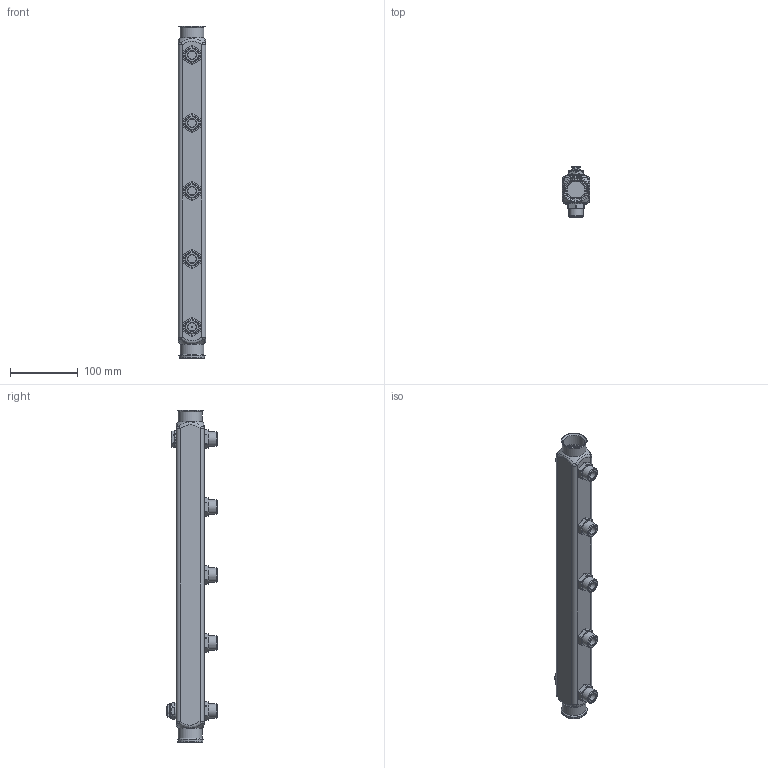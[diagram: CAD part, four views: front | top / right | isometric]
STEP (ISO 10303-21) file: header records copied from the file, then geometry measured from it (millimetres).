
FILE_DESCRIPTION(('STEP AP203'), '1');
FILE_NAME('VTc.510.SQ.060405', '2025-12-12T11:56:20', ('verevichevva'), ('Vesta'), 'C3D Converter', 'C3D Toolkit', '');
FILE_SCHEMA(('CONFIG_CONTROL_DESIGN'));
Length unit declared in the file: millimetre
Products named in the file (1): ВР.622621.195.000 СБ
Bounding box: 40 x 73.6 x 488.5 mm (x, y, z)
Volume: 160409.1 mm3; surface area: 164926.8 mm2
Topology: 1 solids, 18 shells, 844 faces, 2156 edges, 1380 vertices
Faces by surface type: plane 325, cylinder 146, cone 144, extrusion 118, bspline 72, torus 39
Full cylindrical faces by diameter (mm): 1.6 x1, 2.3 x1, 3.4 x1, 4.134 x1, 5 x1, 5.3 x1, 6.3 x2, 9.6 x1, 10.2 x1, 12 x5, 13 x1, 14 x1, 15.7 x1, 18 x6, 18.5 x1, 19 x7, 19.5 x1, 20 x1, 20.955 x11, 22 x1, 22.2 x7, 23 x1, 24 x1, 25.5 x1, 26 x1, 28 x1, 30 x2, 31.8 x3, 35 x2, 35.3 x2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
Entity records: 34600 total; most frequent: CARTESIAN_POINT 15944, ORIENTED_EDGE 3974, DIRECTION 3271, EDGE_CURVE 1987, VERTEX_POINT 1374, AXIS2_PLACEMENT_3D 1159, EDGE_LOOP 1079, VECTOR 953
